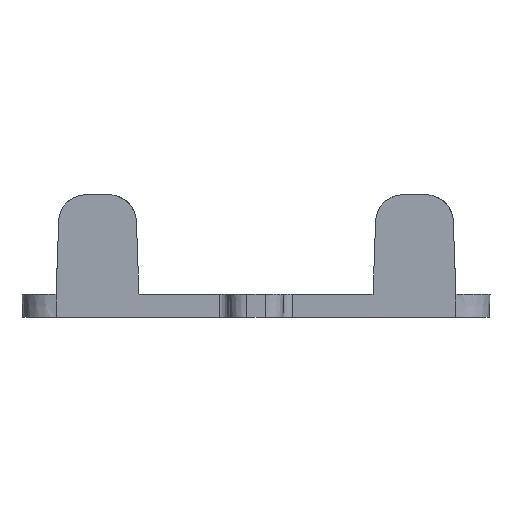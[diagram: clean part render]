
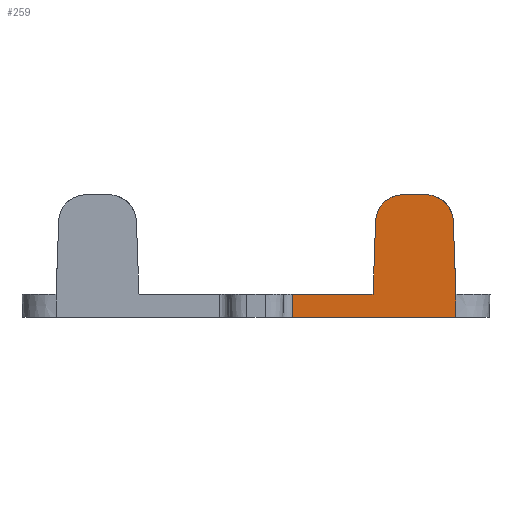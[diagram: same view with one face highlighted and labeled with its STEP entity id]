
A CAD part, front view. The second image highlights one B-rep face of the part: STEP entity #259.
In plain terms, the highlighted planar face has unit normal (0, -0.999, -0.035).
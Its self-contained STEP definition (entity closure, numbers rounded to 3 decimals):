
#159=FACE_OUTER_BOUND('',#840,.T.);
#248=ELLIPSE('',#2033,3.002,3.);
#249=ELLIPSE('',#2034,3.002,3.);
#259=ADVANCED_FACE('',(#159),#364,.F.);
#364=PLANE('',#2035);
#446=LINE('',#2781,#630);
#452=LINE('',#2797,#636);
#453=LINE('',#2800,#637);
#454=LINE('',#2804,#638);
#455=LINE('',#2808,#639);
#456=LINE('',#2809,#640);
#457=LINE('',#2811,#641);
#630=VECTOR('',#2235,1.);
#636=VECTOR('',#2247,1.);
#637=VECTOR('',#2248,1.);
#638=VECTOR('',#2251,1.);
#639=VECTOR('',#2254,1.);
#640=VECTOR('',#2255,1.);
#641=VECTOR('',#2256,1.);
#840=EDGE_LOOP('',(#1003,#1004,#1005,#1006,#1007,#1008,#1009,#1010,#1011));
#1003=ORIENTED_EDGE('',*,*,#1725,.F.);
#1004=ORIENTED_EDGE('',*,*,#1726,.F.);
#1005=ORIENTED_EDGE('',*,*,#1727,.T.);
#1006=ORIENTED_EDGE('',*,*,#1728,.T.);
#1007=ORIENTED_EDGE('',*,*,#1729,.T.);
#1008=ORIENTED_EDGE('',*,*,#1730,.T.);
#1009=ORIENTED_EDGE('',*,*,#1717,.T.);
#1010=ORIENTED_EDGE('',*,*,#1731,.T.);
#1011=ORIENTED_EDGE('',*,*,#1732,.T.);
#1535=VERTEX_POINT('',#2780);
#1536=VERTEX_POINT('',#2782);
#1543=VERTEX_POINT('',#2798);
#1544=VERTEX_POINT('',#2799);
#1545=VERTEX_POINT('',#2801);
#1546=VERTEX_POINT('',#2803);
#1547=VERTEX_POINT('',#2805);
#1548=VERTEX_POINT('',#2807);
#1549=VERTEX_POINT('',#2810);
#1717=EDGE_CURVE('',#1536,#1535,#446,.T.);
#1725=EDGE_CURVE('',#1543,#1544,#452,.T.);
#1726=EDGE_CURVE('',#1545,#1543,#453,.T.);
#1727=EDGE_CURVE('',#1545,#1546,#248,.T.);
#1728=EDGE_CURVE('',#1546,#1547,#454,.T.);
#1729=EDGE_CURVE('',#1547,#1548,#249,.T.);
#1730=EDGE_CURVE('',#1548,#1536,#455,.T.);
#1731=EDGE_CURVE('',#1535,#1549,#456,.T.);
#1732=EDGE_CURVE('',#1549,#1544,#457,.T.);
#2033=AXIS2_PLACEMENT_3D('',#2802,#2249,#2250);
#2034=AXIS2_PLACEMENT_3D('',#2806,#2252,#2253);
#2035=AXIS2_PLACEMENT_3D('',#2812,#2257,#2258);
#2235=DIRECTION('',(-1.,0.,0.));
#2247=DIRECTION('',(0.,0.035,-0.999));
#2248=DIRECTION('',(0.036,0.035,-0.999));
#2249=DIRECTION('',(0.,-0.999,-0.035));
#2250=DIRECTION('',(0.,0.035,-0.999));
#2251=DIRECTION('',(-1.,0.,0.));
#2252=DIRECTION('',(0.,-0.999,-0.035));
#2253=DIRECTION('',(0.,-0.035,0.999));
#2254=DIRECTION('',(-0.036,0.035,-0.999));
#2255=DIRECTION('',(0.,0.035,-0.999));
#2256=DIRECTION('',(1.,0.,0.));
#2257=DIRECTION('',(0.,0.999,0.035));
#2258=DIRECTION('',(0.,-0.035,0.999));
#2780=CARTESIAN_POINT('',(13.208,-199.911,6.535));
#2781=CARTESIAN_POINT('',(28.208,-199.911,6.535));
#2782=CARTESIAN_POINT('',(21.908,-199.911,6.535));
#2797=CARTESIAN_POINT('',(30.907,-199.905,6.368));
#2798=CARTESIAN_POINT('',(30.907,-199.912,6.572));
#2799=CARTESIAN_POINT('',(30.907,-199.824,4.035));
#2800=CARTESIAN_POINT('',(30.905,-199.914,6.632));
#2801=CARTESIAN_POINT('',(30.625,-200.187,14.443));
#2802=CARTESIAN_POINT('',(27.627,-200.183,14.335));
#2803=CARTESIAN_POINT('',(27.627,-200.288,17.335));
#2804=CARTESIAN_POINT('',(-2.092,-200.288,17.335));
#2805=CARTESIAN_POINT('',(25.19,-200.288,17.335));
#2806=CARTESIAN_POINT('',(25.19,-200.183,14.335));
#2807=CARTESIAN_POINT('',(22.192,-200.187,14.443));
#2808=CARTESIAN_POINT('',(21.917,-199.919,6.761));
#2809=CARTESIAN_POINT('',(13.208,-199.911,6.535));
#2810=CARTESIAN_POINT('',(13.208,-199.824,4.035));
#2811=CARTESIAN_POINT('',(28.208,-199.824,4.035));
#2812=CARTESIAN_POINT('',(28.208,-199.911,6.535));
